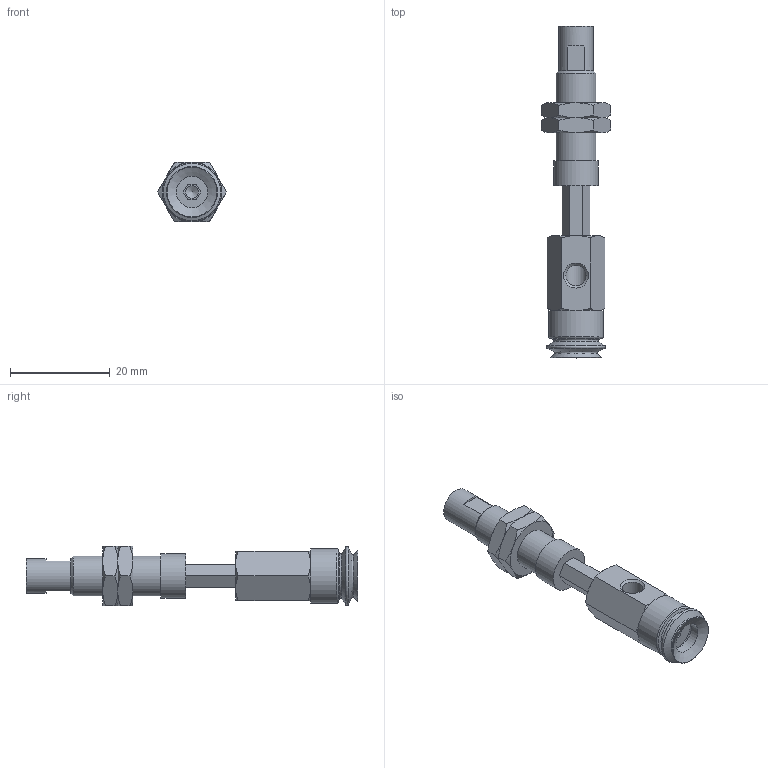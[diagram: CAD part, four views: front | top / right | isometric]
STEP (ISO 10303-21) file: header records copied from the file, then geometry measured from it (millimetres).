
FILE_DESCRIPTION(('STEP AP203'),'1');
FILE_NAME('.stp','2025-04-24T06:27:14',(' '),(' '),'Spatial InterOp 3D',' ',' ');
FILE_SCHEMA(('CONFIG_CONTROL_DESIGN'));
Length unit declared in the file: millimetre
Products named in the file (7): BNABPJYH-10-10-※; Adapter-10-NAPJ; CONNECTOR_H-10-10; NAPJH-10-10-NUT; NAPJTH-10-10-FBODY; NAPJTH-10-10-MBODY; BPJG-10-※
Assembly tree (7 placements, depth 2):
  BNABPJYH-10-10-※
    Adapter-10-NAPJ
    CONNECTOR_H-10-10
    NAPJH-10-10-NUT  x2
    NAPJTH-10-10-FBODY
    NAPJTH-10-10-MBODY
    BPJG-10-※
Bounding box: 13.86 x 66.5 x 12 mm (x, y, z)
Volume: 4054.5 mm3; surface area: 4570.6 mm2
Topology: 7 solids, 7 shells, 149 faces, 327 edges, 200 vertices
Faces by surface type: plane 70, cone 56, cylinder 16, torus 7
Full cylindrical faces by diameter (mm): 2.5 x1, 4.134 x3, 4.6 x1, 5 x2, 6.266 x1, 7 x1, 7.188 x2, 7.8 x1, 8 x2, 9 x1, 11 x1
Entity records: 3900 total; most frequent: CARTESIAN_POINT 1011, DIRECTION 528, ORIENTED_EDGE 458, EDGE_CURVE 229, AXIS2_PLACEMENT_3D 217, EDGE_LOOP 182, VERTEX_POINT 162, FACE_OUTER_BOUND 148
